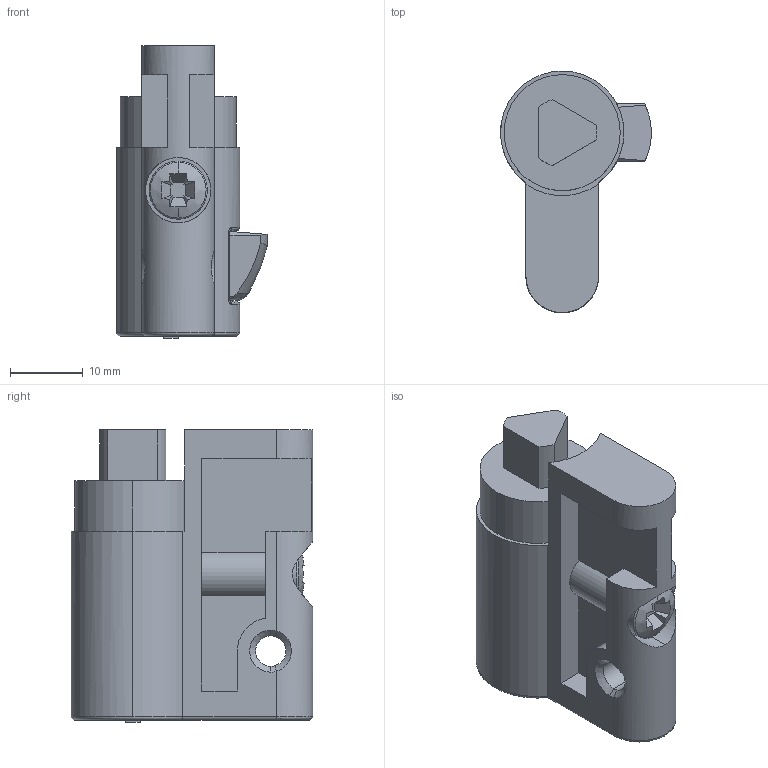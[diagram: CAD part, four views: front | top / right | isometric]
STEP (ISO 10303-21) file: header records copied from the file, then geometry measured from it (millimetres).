
FILE_DESCRIPTION (( 'STEP AP203' ), '1' );
FILE_NAME ('LSSU527_V0.STEP', '2018-04-18T13:26:05', ( '' ), ( '' ), 'SwSTEP 2.0', 'SolidWorks 2017', '' );
FILE_SCHEMA (( 'CONFIG_CONTROL_DESIGN' ));
Length unit declared in the file: millimetre
Products named in the file (2): LSSU527_V0
Bounding box: 20.8 x 33.3 x 40.3 mm (x, y, z)
Surface area: 5603.6 mm2 (no closed solid volume)
Topology: 0 solids, 4 shells, 121 faces, 351 edges, 235 vertices
Faces by surface type: plane 68, cylinder 31, bspline 16, cone 6
Entity records: 5503 total; most frequent: CARTESIAN_POINT 2399, ORIENTED_EDGE 654, DIRECTION 522, EDGE_CURVE 350, VERTEX_POINT 235, VECTOR 206, LINE 206, AXIS2_PLACEMENT_3D 158
